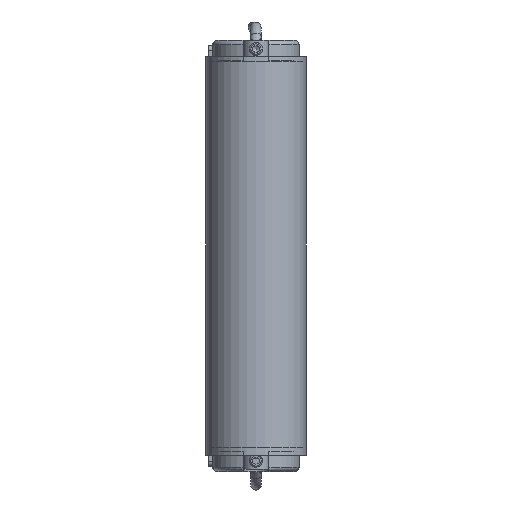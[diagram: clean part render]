
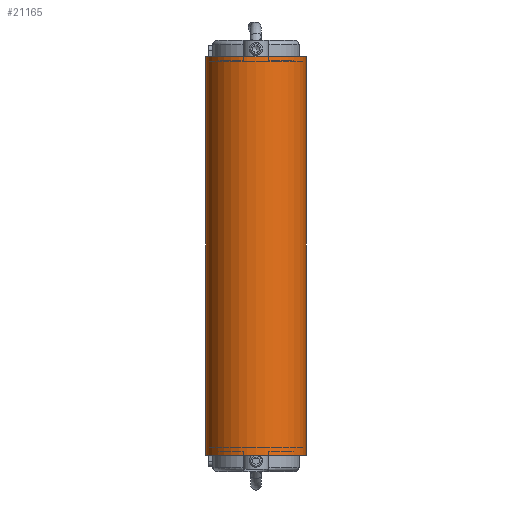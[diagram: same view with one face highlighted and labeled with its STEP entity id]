
A CAD part, front view. The second image highlights one B-rep face of the part: STEP entity #21165.
In plain terms, the highlighted cylindrical face has radius 23.3 mm (diameter 46.6 mm), a partial arc.
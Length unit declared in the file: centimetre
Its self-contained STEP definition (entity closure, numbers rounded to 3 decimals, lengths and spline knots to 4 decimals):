
#619=CYLINDRICAL_SURFACE('',#22644,2.33);
#1345=CIRCLE('',#22639,2.33);
#1348=CIRCLE('',#22645,2.33);
#2265=FACE_OUTER_BOUND('',#3419,.T.);
#3419=EDGE_LOOP('',(#14356,#14357,#14358,#14359));
#4867=LINE('',#31375,#6508);
#4868=LINE('',#31379,#6509);
#6508=VECTOR('',#25625,1.);
#6509=VECTOR('',#25630,1.);
#8389=VERTEX_POINT('',#31358);
#8390=VERTEX_POINT('',#31359);
#8395=VERTEX_POINT('',#31373);
#8396=VERTEX_POINT('',#31377);
#10694=EDGE_CURVE('',#8389,#8390,#1345,.T.);
#10702=EDGE_CURVE('',#8395,#8390,#4867,.T.);
#10703=EDGE_CURVE('',#8395,#8396,#1348,.T.);
#10704=EDGE_CURVE('',#8389,#8396,#4868,.T.);
#14356=ORIENTED_EDGE('',*,*,#10703,.T.);
#14357=ORIENTED_EDGE('',*,*,#10704,.F.);
#14358=ORIENTED_EDGE('',*,*,#10694,.T.);
#14359=ORIENTED_EDGE('',*,*,#10702,.F.);
#21165=ADVANCED_FACE('',(#2265),#619,.T.);
#22639=AXIS2_PLACEMENT_3D('',#31360,#25610,#25611);
#22644=AXIS2_PLACEMENT_3D('',#31376,#25626,#25627);
#22645=AXIS2_PLACEMENT_3D('',#31378,#25628,#25629);
#25610=DIRECTION('center_axis',(0.,0.,
-1.));
#25611=DIRECTION('ref_axis',(-1.,0.,0.));
#25625=DIRECTION('',(0.,0.,1.));
#25626=DIRECTION('center_axis',(0.,0.,
-1.));
#25627=DIRECTION('ref_axis',(-1.,0.,0.));
#25628=DIRECTION('center_axis',(0.,0.,
1.));
#25629=DIRECTION('ref_axis',(-1.,0.,0.));
#25630=DIRECTION('',(0.,0.,-1.));
#31358=CARTESIAN_POINT('',(2.33,-127.,9.25));
#31359=CARTESIAN_POINT('',(-2.33,-127.,9.25));
#31360=CARTESIAN_POINT('Origin',(0.,-127.,
9.25));
#31373=CARTESIAN_POINT('',(-2.33,-127.,-9.25));
#31375=CARTESIAN_POINT('',(-2.33,-127.,0.));
#31376=CARTESIAN_POINT('Origin',(0.,-127.,
0.));
#31377=CARTESIAN_POINT('',(2.33,-127.,-9.25));
#31378=CARTESIAN_POINT('Origin',(0.,-127.,
-9.25));
#31379=CARTESIAN_POINT('',(2.33,-127.,0.));
